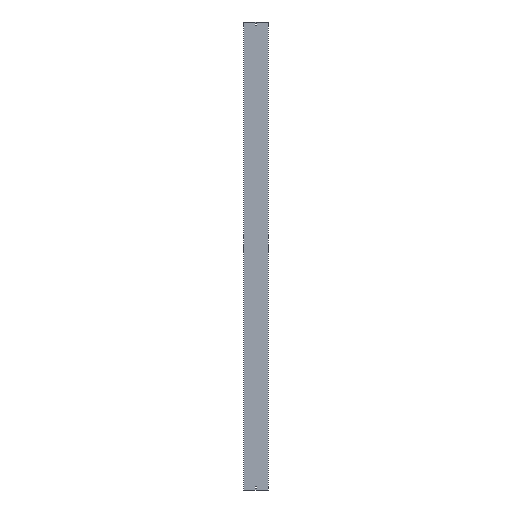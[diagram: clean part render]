
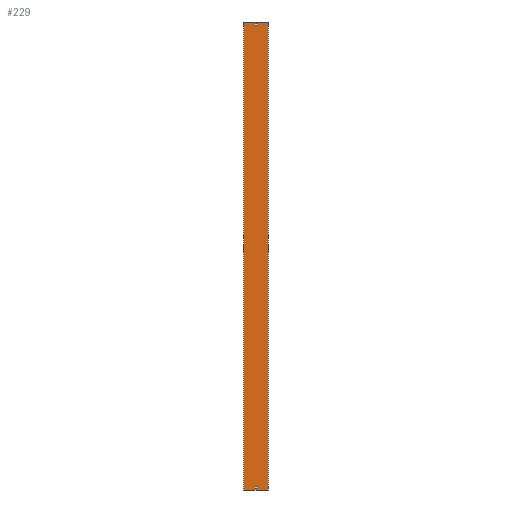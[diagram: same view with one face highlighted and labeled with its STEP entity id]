
A CAD part, front view. The second image highlights one B-rep face of the part: STEP entity #229.
In plain terms, the highlighted planar face has unit normal (0, -1, 0).
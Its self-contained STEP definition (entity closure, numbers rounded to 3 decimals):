
#6 = EDGE_CURVE ( 'NONE', #318, #231, #676, .T. ) ;
#9 = CARTESIAN_POINT ( 'NONE',  ( -77., 0., -1500. ) ) ;
#19 = LINE ( 'NONE', #567, #662 ) ;
#25 = LINE ( 'NONE', #1069, #1117 ) ;
#38 = EDGE_CURVE ( 'NONE', #1101, #145, #1093, .T. ) ;
#40 = LINE ( 'NONE', #60, #875 ) ;
#60 = CARTESIAN_POINT ( 'NONE',  ( -77., 0., 1500. ) ) ;
#64 = LINE ( 'NONE', #335, #877 ) ;
#66 = DIRECTION ( 'NONE',  ( -1., 0., 0. ) ) ;
#77 = EDGE_LOOP ( 'NONE', ( #184, #1071, #632, #808 ) ) ;
#78 = LINE ( 'NONE', #848, #1004 ) ;
#96 = ORIENTED_EDGE ( 'NONE', *, *, #282, .F. ) ;
#103 = CARTESIAN_POINT ( 'NONE',  ( 3.25, 0., 1479. ) ) ;
#117 = ORIENTED_EDGE ( 'NONE', *, *, #431, .F. ) ;
#133 = DIRECTION ( 'NONE',  ( 0., 0., -1. ) ) ;
#134 = EDGE_CURVE ( 'NONE', #556, #847, #1057, .T. ) ;
#145 = VERTEX_POINT ( 'NONE', #771 ) ;
#154 = CARTESIAN_POINT ( 'NONE',  ( -3.25, 0., 1488. ) ) ;
#162 = VECTOR ( 'NONE', #1022, 1000. ) ;
#164 = ORIENTED_EDGE ( 'NONE', *, *, #301, .F. ) ;
#168 = DIRECTION ( 'NONE',  ( 0., 0., -1. ) ) ;
#172 = VERTEX_POINT ( 'NONE', #9 ) ;
#184 = ORIENTED_EDGE ( 'NONE', *, *, #1000, .T. ) ;
#190 = EDGE_CURVE ( 'NONE', #172, #145, #358, .T. ) ;
#191 = FACE_BOUND ( 'NONE', #339, .T. ) ;
#199 = VECTOR ( 'NONE', #661, 1000. ) ;
#202 = DIRECTION ( 'NONE',  ( 0., 0., 1. ) ) ;
#203 = ORIENTED_EDGE ( 'NONE', *, *, #531, .F. ) ;
#208 = ORIENTED_EDGE ( 'NONE', *, *, #6, .F. ) ;
#210 = FACE_OUTER_BOUND ( 'NONE', #895, .T. ) ;
#215 = PLANE ( 'NONE',  #680 ) ;
#229 = ADVANCED_FACE ( 'NONE', ( #210, #191, #468 ), #215, .F. ) ;
#231 = VERTEX_POINT ( 'NONE', #103 ) ;
#232 = DIRECTION ( 'NONE',  ( 0., 0., -1. ) ) ;
#237 = CARTESIAN_POINT ( 'NONE',  ( 3.25, 0., 1488. ) ) ;
#242 = VECTOR ( 'NONE', #66, 1000. ) ;
#282 = EDGE_CURVE ( 'NONE', #231, #846, #25, .T. ) ;
#301 = EDGE_CURVE ( 'NONE', #470, #1101, #19, .T. ) ;
#318 = VERTEX_POINT ( 'NONE', #977 ) ;
#326 = ORIENTED_EDGE ( 'NONE', *, *, #772, .T. ) ;
#332 = VECTOR ( 'NONE', #133, 1000. ) ;
#335 = CARTESIAN_POINT ( 'NONE',  ( -3.25, 0., -1488. ) ) ;
#339 = EDGE_LOOP ( 'NONE', ( #208, #117, #203, #96 ) ) ;
#358 = LINE ( 'NONE', #520, #475 ) ;
#361 = CARTESIAN_POINT ( 'NONE',  ( 3.25, 0., -1479. ) ) ;
#388 = VERTEX_POINT ( 'NONE', #745 ) ;
#431 = EDGE_CURVE ( 'NONE', #883, #318, #489, .T. ) ;
#468 = FACE_BOUND ( 'NONE', #77, .T. ) ;
#470 = VERTEX_POINT ( 'NONE', #615 ) ;
#475 = VECTOR ( 'NONE', #881, 1000. ) ;
#489 = LINE ( 'NONE', #573, #332 ) ;
#497 = VECTOR ( 'NONE', #770, 1000. ) ;
#502 = EDGE_CURVE ( 'NONE', #797, #556, #707, .T. ) ;
#520 = CARTESIAN_POINT ( 'NONE',  ( -77., 0., -1500. ) ) ;
#531 = EDGE_CURVE ( 'NONE', #846, #883, #951, .T. ) ;
#556 = VERTEX_POINT ( 'NONE', #361 ) ;
#567 = CARTESIAN_POINT ( 'NONE',  ( -77., 0., 1500. ) ) ;
#573 = CARTESIAN_POINT ( 'NONE',  ( -3.25, 0., 1488. ) ) ;
#586 = CARTESIAN_POINT ( 'NONE',  ( 3.25, 0., -1488. ) ) ;
#596 = CARTESIAN_POINT ( 'NONE',  ( -3.25, 0., 1479. ) ) ;
#615 = CARTESIAN_POINT ( 'NONE',  ( -77., 0., 1500. ) ) ;
#632 = ORIENTED_EDGE ( 'NONE', *, *, #134, .T. ) ;
#661 = DIRECTION ( 'NONE',  ( 0., 0., -1. ) ) ;
#662 = VECTOR ( 'NONE', #908, 1000. ) ;
#670 = CARTESIAN_POINT ( 'NONE',  ( -3.25, 0., -1479. ) ) ;
#676 = LINE ( 'NONE', #596, #162 ) ;
#680 = AXIS2_PLACEMENT_3D ( 'NONE', #1086, #799, #985 ) ;
#686 = DIRECTION ( 'NONE',  ( 0., 0., 1. ) ) ;
#707 = LINE ( 'NONE', #938, #497 ) ;
#745 = CARTESIAN_POINT ( 'NONE',  ( -3.25, 0., -1488. ) ) ;
#758 = ORIENTED_EDGE ( 'NONE', *, *, #38, .F. ) ;
#770 = DIRECTION ( 'NONE',  ( 1., 0., 0. ) ) ;
#771 = CARTESIAN_POINT ( 'NONE',  ( 77., 0., -1500. ) ) ;
#772 = EDGE_CURVE ( 'NONE', #470, #172, #40, .T. ) ;
#783 = ORIENTED_EDGE ( 'NONE', *, *, #190, .T. ) ;
#784 = DIRECTION ( 'NONE',  ( -1., 0., 0. ) ) ;
#797 = VERTEX_POINT ( 'NONE', #670 ) ;
#799 = DIRECTION ( 'NONE',  ( 0., 1., 0. ) ) ;
#808 = ORIENTED_EDGE ( 'NONE', *, *, #922, .T. ) ;
#846 = VERTEX_POINT ( 'NONE', #237 ) ;
#847 = VERTEX_POINT ( 'NONE', #586 ) ;
#848 = CARTESIAN_POINT ( 'NONE',  ( -3.25, 0., -1488. ) ) ;
#875 = VECTOR ( 'NONE', #232, 1000. ) ;
#877 = VECTOR ( 'NONE', #686, 1000. ) ;
#881 = DIRECTION ( 'NONE',  ( 1., 0., 0. ) ) ;
#883 = VERTEX_POINT ( 'NONE', #941 ) ;
#887 = CARTESIAN_POINT ( 'NONE',  ( 77., 0., 1500. ) ) ;
#895 = EDGE_LOOP ( 'NONE', ( #783, #758, #164, #326 ) ) ;
#908 = DIRECTION ( 'NONE',  ( 1., 0., 0. ) ) ;
#922 = EDGE_CURVE ( 'NONE', #847, #388, #78, .T. ) ;
#938 = CARTESIAN_POINT ( 'NONE',  ( -3.25, 0., -1479. ) ) ;
#941 = CARTESIAN_POINT ( 'NONE',  ( -3.25, 0., 1488. ) ) ;
#951 = LINE ( 'NONE', #154, #242 ) ;
#952 = CARTESIAN_POINT ( 'NONE',  ( 3.25, 0., -1488. ) ) ;
#977 = CARTESIAN_POINT ( 'NONE',  ( -3.25, 0., 1479. ) ) ;
#985 = DIRECTION ( 'NONE',  ( -1., 0., 0. ) ) ;
#1000 = EDGE_CURVE ( 'NONE', #388, #797, #64, .T. ) ;
#1004 = VECTOR ( 'NONE', #784, 1000. ) ;
#1022 = DIRECTION ( 'NONE',  ( 1., 0., 0. ) ) ;
#1023 = VECTOR ( 'NONE', #168, 1000. ) ;
#1057 = LINE ( 'NONE', #952, #1023 ) ;
#1069 = CARTESIAN_POINT ( 'NONE',  ( 3.25, 0., 1488. ) ) ;
#1071 = ORIENTED_EDGE ( 'NONE', *, *, #502, .T. ) ;
#1086 = CARTESIAN_POINT ( 'NONE',  ( -77., 0., 1500. ) ) ;
#1093 = LINE ( 'NONE', #1106, #199 ) ;
#1101 = VERTEX_POINT ( 'NONE', #887 ) ;
#1106 = CARTESIAN_POINT ( 'NONE',  ( 77., 0., 1500. ) ) ;
#1117 = VECTOR ( 'NONE', #202, 1000. ) ;
